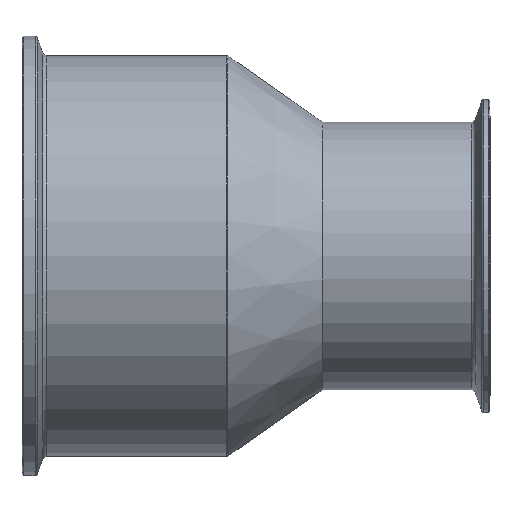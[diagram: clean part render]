
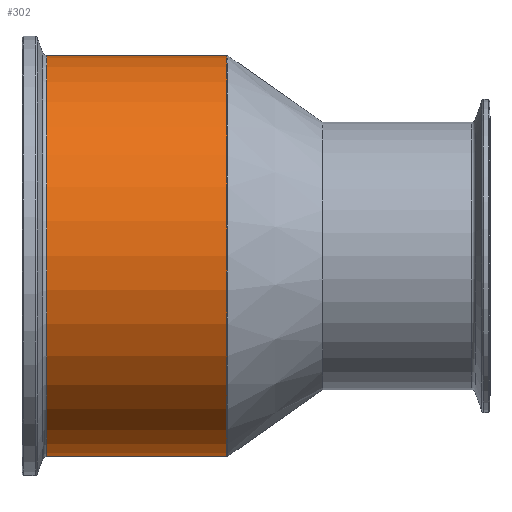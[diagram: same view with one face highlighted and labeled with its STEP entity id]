
A CAD part, top view. The second image highlights one B-rep face of the part: STEP entity #302.
In plain terms, the highlighted cylindrical face has radius 76.2 mm (diameter 152.4 mm), a partial arc.
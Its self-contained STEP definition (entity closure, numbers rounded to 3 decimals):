
#19 = CYLINDRICAL_SURFACE ( 'NONE', #586, 76.2 ) ;
#52 = VERTEX_POINT ( 'NONE', #523 ) ;
#80 = CARTESIAN_POINT ( 'NONE',  ( 9.339, 76.2, 0. ) ) ;
#110 = ORIENTED_EDGE ( 'NONE', *, *, #1637, .F. ) ;
#291 = CARTESIAN_POINT ( 'NONE',  ( 77.777, 76.2, 0. ) ) ;
#302 = ADVANCED_FACE ( 'NONE', ( #1469 ), #19, .T. ) ;
#312 = ORIENTED_EDGE ( 'NONE', *, *, #1331, .F. ) ;
#424 = CARTESIAN_POINT ( 'NONE',  ( 9.339, 0., 0. ) ) ;
#442 = DIRECTION ( 'NONE',  ( 1., 0., 0. ) ) ;
#507 = DIRECTION ( 'NONE',  ( 0., 1., 0. ) ) ;
#523 = CARTESIAN_POINT ( 'NONE',  ( 9.339, -76.2, 0. ) ) ;
#586 = AXIS2_PLACEMENT_3D ( 'NONE', #1168, #1061, #896 ) ;
#644 = VECTOR ( 'NONE', #891, 1000. ) ;
#649 = AXIS2_PLACEMENT_3D ( 'NONE', #424, #442, #507 ) ;
#660 = CARTESIAN_POINT ( 'NONE',  ( 77.777, 0., 0. ) ) ;
#679 = DIRECTION ( 'NONE',  ( 1., 0., 0. ) ) ;
#721 = EDGE_CURVE ( 'NONE', #52, #1110, #1339, .T. ) ;
#755 = VERTEX_POINT ( 'NONE', #291 ) ;
#823 = CIRCLE ( 'NONE', #649, 76.2 ) ;
#847 = ORIENTED_EDGE ( 'NONE', *, *, #721, .T. ) ;
#866 = CIRCLE ( 'NONE', #1620, 76.2 ) ;
#877 = VECTOR ( 'NONE', #679, 1000. ) ;
#891 = DIRECTION ( 'NONE',  ( 1., 0., 0. ) ) ;
#896 = DIRECTION ( 'NONE',  ( 0., 1., 0. ) ) ;
#955 = CARTESIAN_POINT ( 'NONE',  ( 204.684, -76.2, 0. ) ) ;
#1055 = DIRECTION ( 'NONE',  ( 0., 1., 0. ) ) ;
#1061 = DIRECTION ( 'NONE',  ( 1., 0., 0. ) ) ;
#1069 = VERTEX_POINT ( 'NONE', #80 ) ;
#1102 = DIRECTION ( 'NONE',  ( 1., 0., 0. ) ) ;
#1110 = VERTEX_POINT ( 'NONE', #1630 ) ;
#1168 = CARTESIAN_POINT ( 'NONE',  ( 204.684, 0., 0. ) ) ;
#1203 = ORIENTED_EDGE ( 'NONE', *, *, #1679, .T. ) ;
#1331 = EDGE_CURVE ( 'NONE', #1069, #755, #1546, .T. ) ;
#1339 = LINE ( 'NONE', #955, #644 ) ;
#1469 = FACE_OUTER_BOUND ( 'NONE', #1473, .T. ) ;
#1473 = EDGE_LOOP ( 'NONE', ( #1203, #847, #110, #312 ) ) ;
#1546 = LINE ( 'NONE', #1594, #877 ) ;
#1594 = CARTESIAN_POINT ( 'NONE',  ( 204.684, 76.2, 0. ) ) ;
#1620 = AXIS2_PLACEMENT_3D ( 'NONE', #660, #1102, #1055 ) ;
#1630 = CARTESIAN_POINT ( 'NONE',  ( 77.777, -76.2, 0. ) ) ;
#1637 = EDGE_CURVE ( 'NONE', #755, #1110, #866, .T. ) ;
#1679 = EDGE_CURVE ( 'NONE', #1069, #52, #823, .T. ) ;
